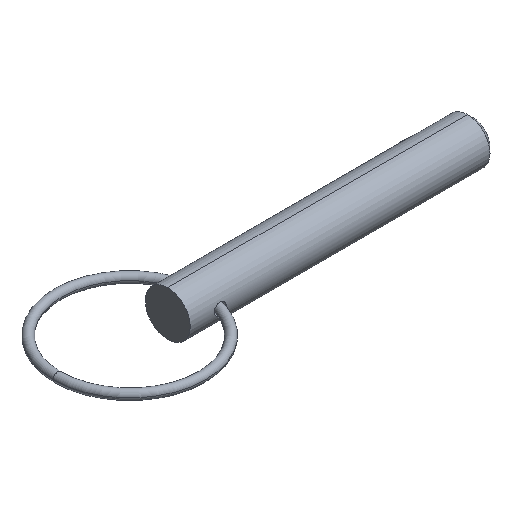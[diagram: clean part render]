
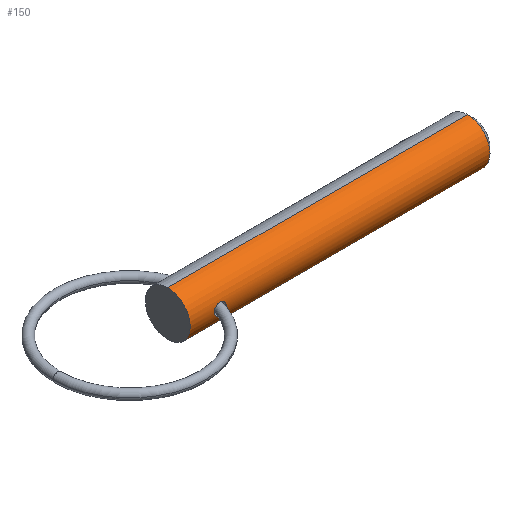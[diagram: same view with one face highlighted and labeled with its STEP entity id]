
A CAD part, isometric view. The second image highlights one B-rep face of the part: STEP entity #150.
In plain terms, the highlighted cylindrical face has radius 3.97 mm (diameter 7.94 mm), a partial arc.
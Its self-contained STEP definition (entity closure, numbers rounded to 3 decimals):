
#1 = FACE_BOUND ( 'NONE', #230, .T. ) ;
#6 = VERTEX_POINT ( 'NONE', #64 ) ;
#7 = CARTESIAN_POINT ( 'NONE',  ( 0., 0., 0. ) ) ;
#23 = EDGE_CURVE ( 'NONE', #272, #229, #605, .T. ) ;
#27 = CARTESIAN_POINT ( 'NONE',  ( 6.323, -3.963, 0.268 ) ) ;
#38 = CARTESIAN_POINT ( 'NONE',  ( 0., 0., 3.97 ) ) ;
#48 = CARTESIAN_POINT ( 'NONE',  ( 6.324, -3.963, -0.267 ) ) ;
#57 = CARTESIAN_POINT ( 'NONE',  ( 5.452, -3.843, -0.996 ) ) ;
#64 = CARTESIAN_POINT ( 'NONE',  ( 52.988, 0., -3.97 ) ) ;
#69 = ORIENTED_EDGE ( 'NONE', *, *, #604, .T. ) ;
#73 = ORIENTED_EDGE ( 'NONE', *, *, #235, .T. ) ;
#83 = DIRECTION ( 'NONE',  ( 1., 0., 0. ) ) ;
#91 = CARTESIAN_POINT ( 'NONE',  ( 4.26, -3.97, 0. ) ) ;
#97 = CARTESIAN_POINT ( 'NONE',  ( 5.839, -3.871, 0.882 ) ) ;
#99 = VERTEX_POINT ( 'NONE', #434 ) ;
#105 = DIRECTION ( 'NONE',  ( 1., 0., 0. ) ) ;
#118 = CARTESIAN_POINT ( 'NONE',  ( 5.587, -3.849, -0.975 ) ) ;
#141 = CARTESIAN_POINT ( 'NONE',  ( 6.35, -3.97, 0. ) ) ;
#149 = LINE ( 'NONE', #661, #598 ) ;
#150 = ADVANCED_FACE ( 'NONE', ( #456, #1 ), #462, .T. ) ;
#153 = EDGE_LOOP ( 'NONE', ( #818, #537, #73, #206 ) ) ;
#159 = CARTESIAN_POINT ( 'NONE',  ( 4.26, -3.97, 0.134 ) ) ;
#164 = CARTESIAN_POINT ( 'NONE',  ( 5.587, -3.849, 0.975 ) ) ;
#186 = CARTESIAN_POINT ( 'NONE',  ( 5.952, -3.887, -0.811 ) ) ;
#192 = CARTESIAN_POINT ( 'NONE',  ( 5.837, -3.871, -0.882 ) ) ;
#198 = AXIS2_PLACEMENT_3D ( 'NONE', #627, #233, #486 ) ;
#206 = ORIENTED_EDGE ( 'NONE', *, *, #386, .F. ) ;
#222 = CARTESIAN_POINT ( 'NONE',  ( 0., 0., -3.97 ) ) ;
#229 = VERTEX_POINT ( 'NONE', #544 ) ;
#230 = EDGE_LOOP ( 'NONE', ( #591, #69 ) ) ;
#233 = DIRECTION ( 'NONE',  ( 1., 0., 0. ) ) ;
#235 = EDGE_CURVE ( 'NONE', #229, #6, #804, .T. ) ;
#245 = EDGE_CURVE ( 'NONE', #99, #423, #468, .T. ) ;
#261 = AXIS2_PLACEMENT_3D ( 'NONE', #558, #105, #819 ) ;
#272 = VERTEX_POINT ( 'NONE', #38 ) ;
#292 = CARTESIAN_POINT ( 'NONE',  ( 6.35, -3.97, 0.134 ) ) ;
#361 = CARTESIAN_POINT ( 'NONE',  ( 5.953, -3.888, 0.81 ) ) ;
#366 = CARTESIAN_POINT ( 'NONE',  ( 6.221, -3.939, 0.513 ) ) ;
#386 = EDGE_CURVE ( 'NONE', #617, #6, #452, .T. ) ;
#389 = CARTESIAN_POINT ( 'NONE',  ( 4.408, -3.939, -0.508 ) ) ;
#392 = CARTESIAN_POINT ( 'NONE',  ( 4.291, -3.963, -0.267 ) ) ;
#397 = CARTESIAN_POINT ( 'NONE',  ( 4.26, -3.97, -0.134 ) ) ;
#403 = DIRECTION ( 'NONE',  ( 1., 0., 0. ) ) ;
#421 = CARTESIAN_POINT ( 'NONE',  ( 4.492, -3.923, 0.614 ) ) ;
#423 = VERTEX_POINT ( 'NONE', #141 ) ;
#426 = B_SPLINE_CURVE_WITH_KNOTS ( 'NONE', 3,
 ( #507, #769, #48, #645, #762, #186, #192, #118, #57, #584, #841, #707, #389, #392, #397, #838 ),
 .UNSPECIFIED., .F., .F.,
 ( 4, 2, 2, 2, 2, 2, 2, 4 ),
 ( 0.004, 0.004, 0.005, 0.005, 0.005, 0.006, 0.007, 0.007 ),
 .UNSPECIFIED. ) ;
#432 = CARTESIAN_POINT ( 'NONE',  ( 6.35, -3.97, 0. ) ) ;
#434 = CARTESIAN_POINT ( 'NONE',  ( 4.26, -3.97, 0. ) ) ;
#452 = CIRCLE ( 'NONE', #198, 3.97 ) ;
#456 = FACE_OUTER_BOUND ( 'NONE', #153, .T. ) ;
#462 = CYLINDRICAL_SURFACE ( 'NONE', #748, 3.97 ) ;
#468 = B_SPLINE_CURVE_WITH_KNOTS ( 'NONE', 3,
 ( #91, #159, #478, #739, #421, #549, #811, #677, #483, #614, #164, #97, #361, #683, #366, #27, #292, #432 ),
 .UNSPECIFIED., .F., .F.,
 ( 4, 2, 2, 2, 2, 2, 2, 2, 4 ),
 ( 0.001, 0.001, 0.001, 0.002, 0.002, 0.003, 0.003, 0.003, 0.004 ),
 .UNSPECIFIED. ) ;
#478 = CARTESIAN_POINT ( 'NONE',  ( 4.292, -3.963, 0.268 ) ) ;
#483 = CARTESIAN_POINT ( 'NONE',  ( 5.185, -3.845, 0.988 ) ) ;
#486 = DIRECTION ( 'NONE',  ( 0., 0., -1. ) ) ;
#507 = CARTESIAN_POINT ( 'NONE',  ( 6.35, -3.97, 0. ) ) ;
#516 = CARTESIAN_POINT ( 'NONE',  ( 52.988, 0., 3.97 ) ) ;
#537 = ORIENTED_EDGE ( 'NONE', *, *, #23, .T. ) ;
#544 = CARTESIAN_POINT ( 'NONE',  ( 0., 0., -3.97 ) ) ;
#549 = CARTESIAN_POINT ( 'NONE',  ( 4.691, -3.891, 0.792 ) ) ;
#555 = DIRECTION ( 'NONE',  ( 1., 0., 0. ) ) ;
#558 = CARTESIAN_POINT ( 'NONE',  ( 0., 0., 0. ) ) ;
#584 = CARTESIAN_POINT ( 'NONE',  ( 5.052, -3.846, -0.984 ) ) ;
#591 = ORIENTED_EDGE ( 'NONE', *, *, #245, .T. ) ;
#598 = VECTOR ( 'NONE', #83, 1000. ) ;
#604 = EDGE_CURVE ( 'NONE', #423, #99, #426, .T. ) ;
#605 = CIRCLE ( 'NONE', #261, 3.97 ) ;
#614 = CARTESIAN_POINT ( 'NONE',  ( 5.455, -3.843, 0.996 ) ) ;
#617 = VERTEX_POINT ( 'NONE', #516 ) ;
#627 = CARTESIAN_POINT ( 'NONE',  ( 52.988, 0., 0. ) ) ;
#645 = CARTESIAN_POINT ( 'NONE',  ( 6.221, -3.939, -0.514 ) ) ;
#652 = EDGE_CURVE ( 'NONE', #272, #617, #149, .T. ) ;
#657 = DIRECTION ( 'NONE',  ( 0., 0., -1. ) ) ;
#661 = CARTESIAN_POINT ( 'NONE',  ( 0., 0., 3.97 ) ) ;
#677 = CARTESIAN_POINT ( 'NONE',  ( 5.055, -3.852, 0.961 ) ) ;
#683 = CARTESIAN_POINT ( 'NONE',  ( 6.144, -3.921, 0.626 ) ) ;
#707 = CARTESIAN_POINT ( 'NONE',  ( 4.492, -3.923, -0.614 ) ) ;
#739 = CARTESIAN_POINT ( 'NONE',  ( 4.408, -3.939, 0.507 ) ) ;
#748 = AXIS2_PLACEMENT_3D ( 'NONE', #7, #403, #657 ) ;
#759 = VECTOR ( 'NONE', #555, 1000. ) ;
#762 = CARTESIAN_POINT ( 'NONE',  ( 6.145, -3.922, -0.626 ) ) ;
#769 = CARTESIAN_POINT ( 'NONE',  ( 6.35, -3.97, -0.133 ) ) ;
#804 = LINE ( 'NONE', #222, #759 ) ;
#811 = CARTESIAN_POINT ( 'NONE',  ( 4.805, -3.876, 0.862 ) ) ;
#818 = ORIENTED_EDGE ( 'NONE', *, *, #652, .F. ) ;
#819 = DIRECTION ( 'NONE',  ( 0., 0., -1. ) ) ;
#838 = CARTESIAN_POINT ( 'NONE',  ( 4.26, -3.97, 0. ) ) ;
#841 = CARTESIAN_POINT ( 'NONE',  ( 4.788, -3.876, -0.879 ) ) ;
